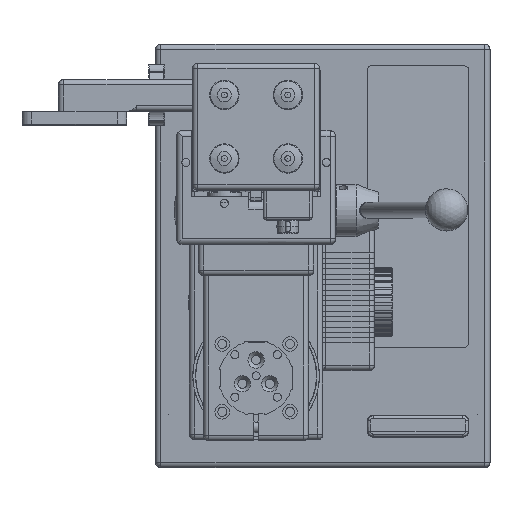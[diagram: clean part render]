
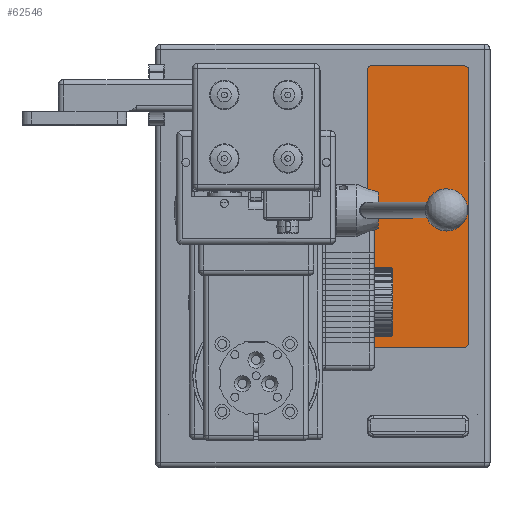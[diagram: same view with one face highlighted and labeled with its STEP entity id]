
A CAD part, top view. The second image highlights one B-rep face of the part: STEP entity #62546.
In plain terms, the highlighted planar face has unit normal (0, 0, 1).
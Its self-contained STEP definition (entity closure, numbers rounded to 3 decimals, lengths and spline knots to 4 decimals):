
#3483=LINE('',#93769,#9342);
#3486=LINE('',#93777,#9345);
#3490=LINE('',#93786,#9349);
#3491=LINE('',#93788,#9350);
#9342=VECTOR('',#74724,1.);
#9345=VECTOR('',#74733,1.);
#9349=VECTOR('',#74743,1.);
#9350=VECTOR('',#74744,1.);
#15356=FACE_OUTER_BOUND('',#18963,.T.);
#18963=EDGE_LOOP('',(#44122,#44123,#44124,#44125,#44126,#44127,#44128,#44129));
#22858=CIRCLE('',#66731,0.125);
#22859=CIRCLE('',#66734,0.125);
#22860=CIRCLE('',#66737,0.125);
#22861=CIRCLE('',#66739,0.125);
#25944=VERTEX_POINT('',#93762);
#25945=VERTEX_POINT('',#93763);
#25946=VERTEX_POINT('',#93768);
#25947=VERTEX_POINT('',#93772);
#25948=VERTEX_POINT('',#93776);
#25949=VERTEX_POINT('',#93780);
#25950=VERTEX_POINT('',#93781);
#25951=VERTEX_POINT('',#93787);
#32813=EDGE_CURVE('',#25944,#25945,#22858,.T.);
#32816=EDGE_CURVE('',#25944,#25946,#3483,.T.);
#32818=EDGE_CURVE('',#25947,#25946,#22859,.T.);
#32820=EDGE_CURVE('',#25947,#25948,#3486,.T.);
#32822=EDGE_CURVE('',#25949,#25950,#22860,.T.);
#32825=EDGE_CURVE('',#25949,#25945,#3490,.T.);
#32826=EDGE_CURVE('',#25951,#25950,#3491,.T.);
#32827=EDGE_CURVE('',#25951,#25948,#22861,.T.);
#44122=ORIENTED_EDGE('',*,*,#32813,.T.);
#44123=ORIENTED_EDGE('',*,*,#32825,.F.);
#44124=ORIENTED_EDGE('',*,*,#32822,.T.);
#44125=ORIENTED_EDGE('',*,*,#32826,.F.);
#44126=ORIENTED_EDGE('',*,*,#32827,.T.);
#44127=ORIENTED_EDGE('',*,*,#32820,.F.);
#44128=ORIENTED_EDGE('',*,*,#32818,.T.);
#44129=ORIENTED_EDGE('',*,*,#32816,.F.);
#60130=PLANE('',#66738);
#62546=ADVANCED_FACE('',(#15356),#60130,.T.);
#66731=AXIS2_PLACEMENT_3D('',#93764,#74718,#74719);
#66734=AXIS2_PLACEMENT_3D('',#93773,#74728,#74729);
#66737=AXIS2_PLACEMENT_3D('',#93782,#74737,#74738);
#66738=AXIS2_PLACEMENT_3D('',#93785,#74741,#74742);
#66739=AXIS2_PLACEMENT_3D('',#93789,#74745,#74746);
#74718=DIRECTION('center_axis',(0.,0.,1.));
#74719=DIRECTION('ref_axis',(0.707,-0.707,0.));
#74724=DIRECTION('',(-1.,0.,0.));
#74728=DIRECTION('center_axis',(0.,0.,1.));
#74729=DIRECTION('ref_axis',(-0.707,-0.707,0.));
#74733=DIRECTION('',(0.,1.,0.));
#74737=DIRECTION('center_axis',(0.,0.,1.));
#74738=DIRECTION('ref_axis',(0.707,0.707,0.));
#74741=DIRECTION('center_axis',(0.,0.,1.));
#74742=DIRECTION('ref_axis',(1.,0.,0.));
#74743=DIRECTION('',(0.,-1.,0.));
#74744=DIRECTION('',(1.,0.,0.));
#74745=DIRECTION('center_axis',(0.,0.,1.));
#74746=DIRECTION('ref_axis',(-0.707,0.707,0.));
#93762=CARTESIAN_POINT('',(33.822,25.6011,7.199));
#93763=CARTESIAN_POINT('',(33.947,25.7261,7.199));
#93764=CARTESIAN_POINT('Origin',(33.822,25.7261,7.199));
#93768=CARTESIAN_POINT('',(31.672,25.6011,7.199));
#93769=CARTESIAN_POINT('',(32.747,25.6011,7.199));
#93772=CARTESIAN_POINT('',(31.547,25.7261,7.199));
#93773=CARTESIAN_POINT('Origin',(31.672,25.7261,7.199));
#93776=CARTESIAN_POINT('',(31.547,32.1361,7.199));
#93777=CARTESIAN_POINT('',(31.547,28.9311,7.199));
#93780=CARTESIAN_POINT('',(33.947,32.1361,7.199));
#93781=CARTESIAN_POINT('',(33.822,32.2611,7.199));
#93782=CARTESIAN_POINT('Origin',(33.822,32.1361,7.199));
#93785=CARTESIAN_POINT('Origin',(32.747,28.9311,7.199));
#93786=CARTESIAN_POINT('',(33.947,28.9311,7.199));
#93787=CARTESIAN_POINT('',(31.672,32.2611,7.199));
#93788=CARTESIAN_POINT('',(32.747,32.2611,7.199));
#93789=CARTESIAN_POINT('Origin',(31.672,32.1361,7.199));
